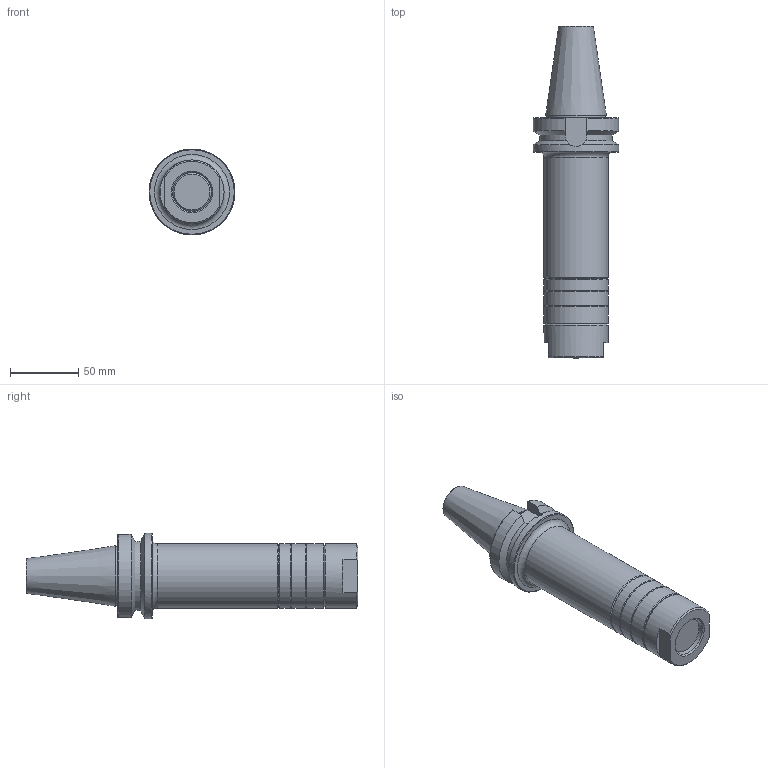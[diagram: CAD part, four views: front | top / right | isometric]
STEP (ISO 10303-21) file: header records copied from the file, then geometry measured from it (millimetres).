
FILE_DESCRIPTION(/* description */ (''),/* implementation_level */ '2;1');
FILE_NAME(/* name */ 'BT40-SCA32-120L.stp',/* time_stamp */ '2026-03-30T14:21:10+03:00',/* author */ ('User'),/* organization */ (''),/* preprocessor_version */ 'ST-DEVELOPER v19.2',/* originating_system */ 'Autodesk Inventor 2024',/* authorisation */ '');
FILE_SCHEMA (('AUTOMOTIVE_DESIGN { 1 0 10303 214 3 1 1 }'));
Length unit declared in the file: millimetre
Products named in the file (6): BT40-SCA27-75L; BT40-FMB60-75; Кольцо 10 мм; Кольцо 10 мм_1; Кольцо 10 мм_2; Крышка
Assembly tree (5 placements, depth 2):
  BT40-SCA27-75L
    BT40-FMB60-75
    Кольцо 10 мм
    Кольцо 10 мм_1
    Кольцо 10 мм_2
    Крышка
Bounding box: 63 x 243.4 x 63 mm (x, y, z)
Volume: 385927.5 mm3; surface area: 61685 mm2
Topology: 6 solids, 6 shells, 99 faces, 241 edges, 162 vertices
Faces by surface type: plane 43, cylinder 25, cone 25, torus 6
Full cylindrical faces by diameter (mm): 14.2 x1, 17 x1, 28.376 x1, 30 x1, 32 x1, 43 x1, 47 x5, 63 x1
Entity records: 3303 total; most frequent: CARTESIAN_POINT 685, DIRECTION 521, ORIENTED_EDGE 482, EDGE_CURVE 241, AXIS2_PLACEMENT_3D 210, VERTEX_POINT 162, EDGE_LOOP 115, LINE 101
